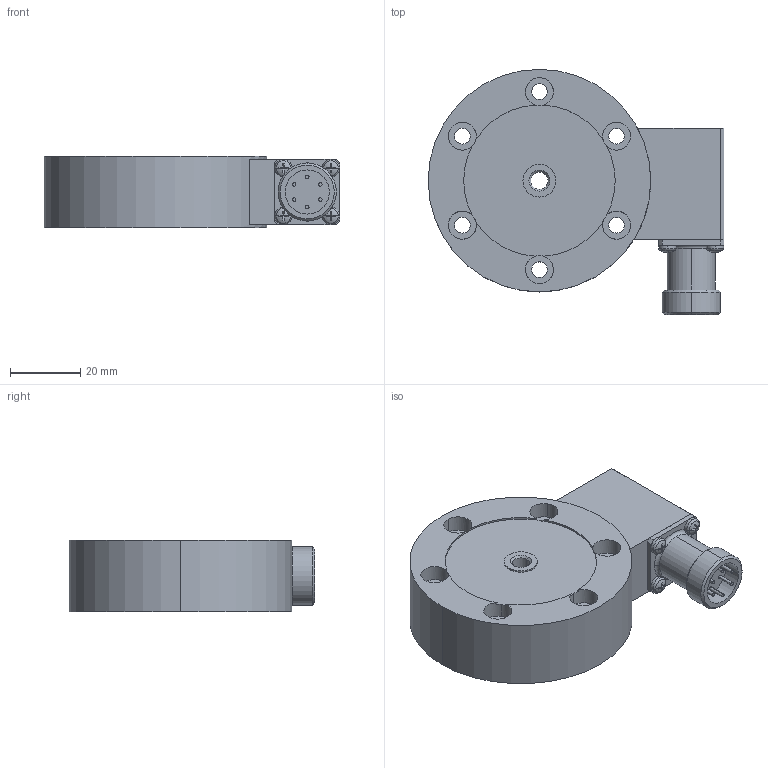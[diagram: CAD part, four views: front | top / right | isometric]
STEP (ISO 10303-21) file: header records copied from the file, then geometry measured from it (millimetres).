
FILE_DESCRIPTION(('STEP AP203'),'1');
FILE_NAME('C:/TPO v2/SharedFS/Outgoing/burster_85041-0_1_dfgmyaz8vugwpiokb3i7xj1tw.stp','2013-08-27T13:41:56',('TraceParts'),('TraceParts S.A.'),'XStep 1.0',' ',' ');
FILE_SCHEMA(('CONFIG_CONTROL_DESIGN'));
Length unit declared in the file: millimetre
Products named in the file (1): 1
Bounding box: 84.35 x 69.95 x 20.3 mm (x, y, z)
Volume: 76128.3 mm3; surface area: 16579.2 mm2
Topology: 1 solids, 1 shells, 188 faces, 473 edges, 300 vertices
Faces by surface type: plane 92, cylinder 62, torus 18, cone 16
Entity records: 6141 total; most frequent: CARTESIAN_POINT 1486, DIRECTION 1007, ORIENTED_EDGE 946, EDGE_CURVE 473, AXIS2_PLACEMENT_3D 405, VERTEX_POINT 300, CIRCLE 216, EDGE_LOOP 215
